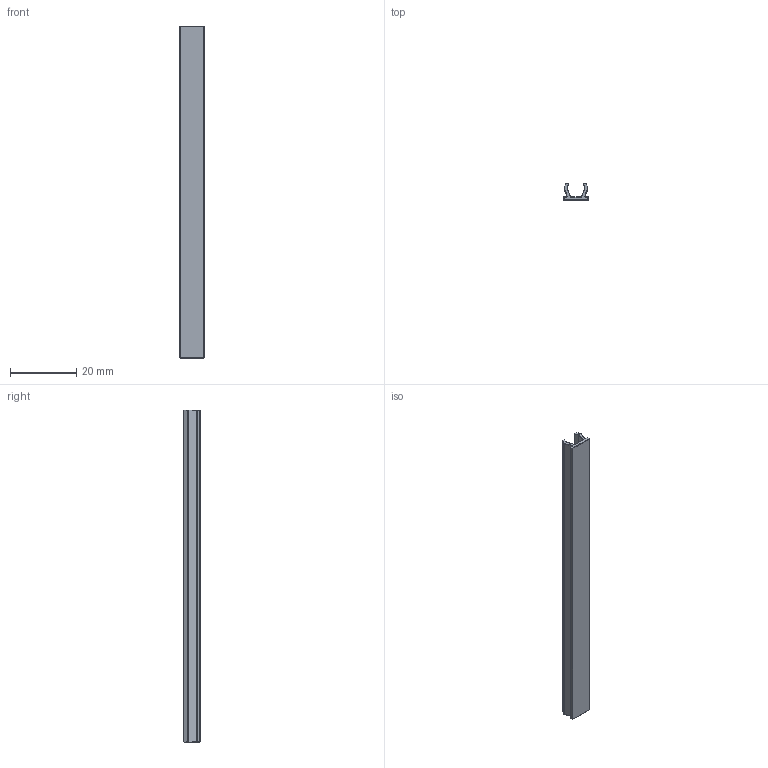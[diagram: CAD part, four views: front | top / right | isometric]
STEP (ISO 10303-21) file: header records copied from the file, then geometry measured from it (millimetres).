
FILE_DESCRIPTION (( 'STEP AP214' ), '1' );
FILE_NAME ('4037 ïàç 6.STEP', '2015-05-11T06:18:08', ( '' ), ( '' ), 'SwSTEP 2.0', 'SolidWorks 2014', '' );
FILE_SCHEMA (( 'AUTOMOTIVE_DESIGN' ));
Length unit declared in the file: millimetre
Products named in the file (1): 4037 ïàç 6
Bounding box: 7.3 x 5 x 100 mm (x, y, z)
Volume: 1528.9 mm3; surface area: 3335.2 mm2
Topology: 1 solids, 1 shells, 110 faces, 258 edges, 134 vertices
Faces by surface type: cylinder 52, torus 22, sphere 18, plane 18
Entity records: 3026 total; most frequent: DIRECTION 606, CARTESIAN_POINT 487, ORIENTED_EDGE 484, AXIS2_PLACEMENT_3D 253, EDGE_CURVE 242, CIRCLE 142, VERTEX_POINT 134, ADVANCED_FACE 110
